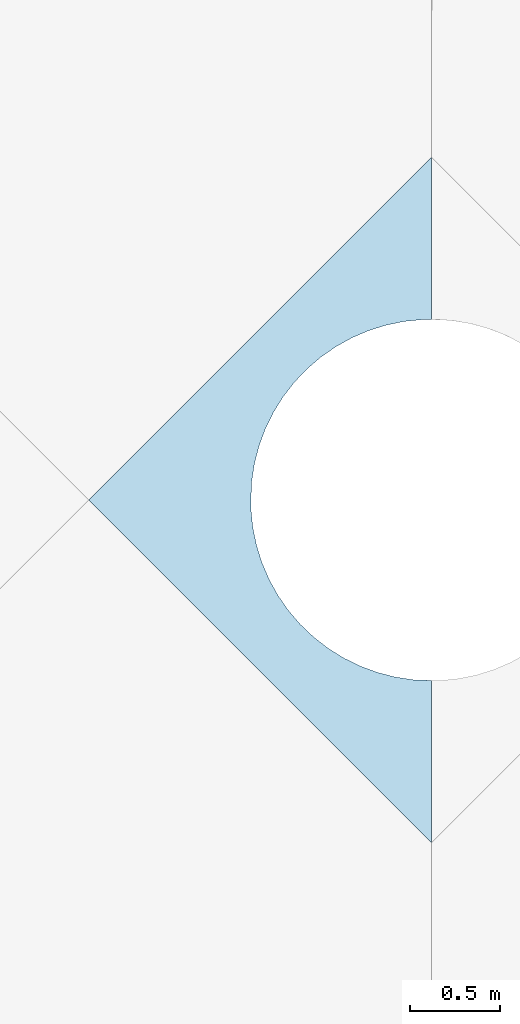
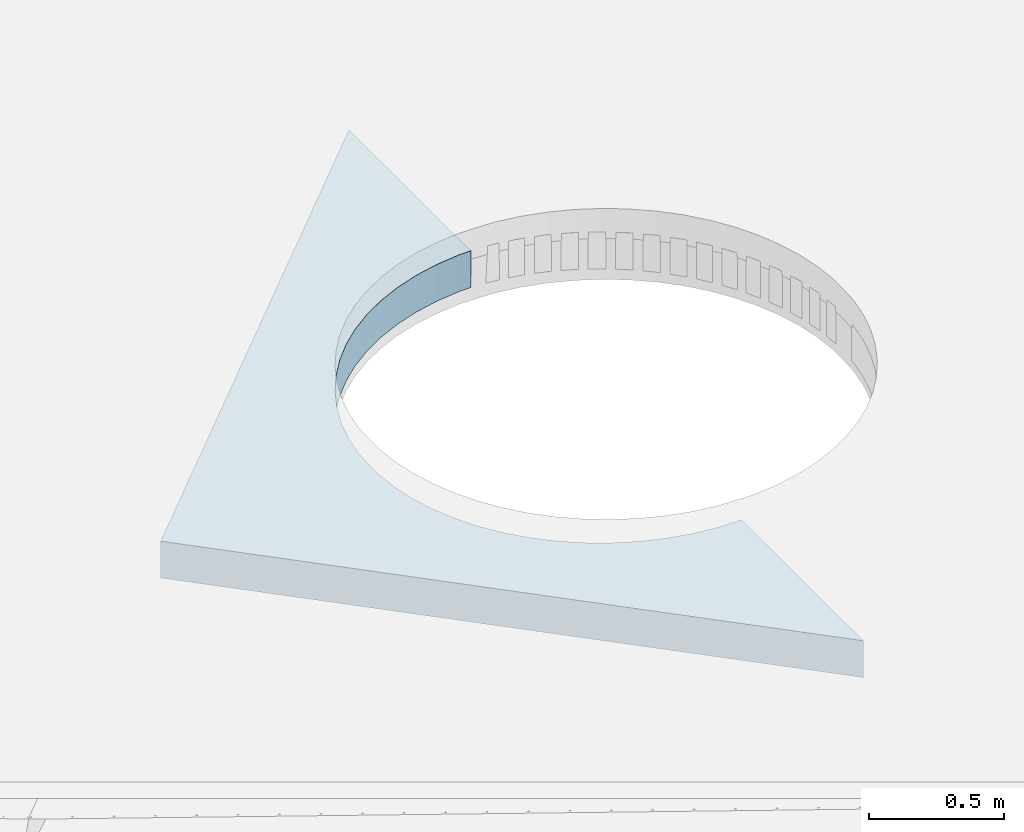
# One storey, part 2 of 10: 1 slab.
"""IFC4 building model written with IfcOpenShell, lengths in millimetres."""

from ifc_helpers import new_model, entity, si_unit, converted_unit, derived_unit, direction, frame, origin_with_axes, place, context, subcontext, project, spatial, polygons, material, constituent, constituent_set, type_object, element, save


model = new_model("IFC4")

# Units and contexts
model_context = context("Model", 3, precision=0.01, world=origin_with_axes(), true_north=direction((0.0, 1.0)))
body_context = subcontext(model_context, "Body", "Model", "MODEL_VIEW")
ifc_project = project(units=[si_unit("LENGTHUNIT", "METRE", prefix="MILLI"), si_unit("AREAUNIT", "SQUARE_METRE"), si_unit("VOLUMEUNIT", "CUBIC_METRE"), converted_unit("PLANEANGLEUNIT", "DEGREE", entity("IfcPlaneAngleMeasure", 0.0174532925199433), si_unit("PLANEANGLEUNIT", "RADIAN"), dimensions=[0, 0, 0, 0, 0, 0, 0]), converted_unit("TIMEUNIT", "Year", entity("IfcTimeMeasure", 31557600.0), si_unit("TIMEUNIT", "SECOND"), dimensions=[0, 0, 1, 0, 0, 0, 0]), si_unit("MASSUNIT", "GRAM", prefix="KILO"), si_unit("THERMODYNAMICTEMPERATUREUNIT", "DEGREE_CELSIUS"), si_unit("LUMINOUSINTENSITYUNIT", "LUMEN"), si_unit("ENERGYUNIT", "JOULE", prefix="MEGA"), derived_unit("THERMALCONDUCTANCEUNIT", [(si_unit("POWERUNIT", "WATT"), 1), (si_unit("LENGTHUNIT", "METRE"), -1), (si_unit("THERMODYNAMICTEMPERATUREUNIT", "KELVIN"), -1)]), derived_unit("SPECIFICHEATCAPACITYUNIT", [(si_unit("ENERGYUNIT", "JOULE"), 1), (si_unit("MASSUNIT", "GRAM", prefix="KILO"), -1), (si_unit("THERMODYNAMICTEMPERATUREUNIT", "KELVIN"), -1)]), derived_unit("MASSDENSITYUNIT", [(si_unit("MASSUNIT", "GRAM", prefix="KILO"), 1), (si_unit("VOLUMEUNIT", "CUBIC_METRE"), -1)])], contexts=[model_context])

# Site, building, storey
site_placement = place(None, origin_with_axes())
site = spatial("IfcSite", under=ifc_project, at=site_placement, Name="Exteriér", CompositionType="ELEMENT")
building_placement = place(site_placement, origin_with_axes())
building = spatial("IfcBuilding", under=site, at=building_placement, Name="Univerzitní lezecké centrum", CompositionType="ELEMENT")
storey_placement = place(building_placement, frame((0.0, 0.0, 9600.000000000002), z_axis=(0.0, 0.0, 1.0), x_axis=(1.0, 0.0, 0.0)))
storey = spatial("IfcBuildingStorey", under=building, at=storey_placement, Name="4.NP", CompositionType="ELEMENT", Elevation=9600.0)

# Slab
ifc_material_1 = material(Name="TPO fólie ochranná")
ifc_constituent_1 = constituent(ifc_material_1, Name="TPO fólie ochranná")
ifc_material_2 = material(Name="Geotextilie 200 g/m2")
ifc_constituent_2 = constituent(ifc_material_2, Name="Geotextilie 200 g/m2")
ifc_material_3 = material(Name="Hydroizolace - TPO fólie")
ifc_constituent_3 = constituent(ifc_material_3, Name="Hydroizolace - TPO fólie")
ifc_material_4 = material(Name="Tepelná izolace - polystyren EPS podlahy")
ifc_constituent_4 = constituent(ifc_material_4, Name="Tepelná izolace - polystyren EPS podlahy")
ifc_constituent_set = constituent_set(constituents=[ifc_constituent_1, ifc_constituent_2, ifc_constituent_3, ifc_constituent_4], Name="!Podlaha spádovaná - terasy - TI + HI vrstva")
slab_type = type_object("IfcSlabType", Name="!Podlaha spádovaná - terasy - TI + HI vrstva 166", PredefinedType="ROOF")
slab_placement = place(storey_placement, frame((549.8516488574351, -2897.489748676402, -300.0062110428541), z_axis=(0.0, 0.0, 1.0), x_axis=(0.0, -1.0, 0.0)))
element("IfcSlab", 1, at=slab_placement, inside=storey, type_object=slab_type, material=ifc_constituent_set, PredefinedType="ROOF", context=body_context, shape_type="Tessellation", body=[
    polygons([(2542.429197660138, 1899.905782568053, 204.0313123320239), (2538.573222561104, 1798.535123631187, 202.0038991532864), (2523.21190620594, 1698.290685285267, 199.9990103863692), (2497.787842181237, 1600.114647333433, 198.0354896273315), (2462.561915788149, 1505.014428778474, 196.1334852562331), (2417.895592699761, 1413.965886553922, 194.3125144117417), (2364.247209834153, 1327.903301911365, 192.5912627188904), (2302.167272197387, 1247.709793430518, 190.9873925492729), (2232.292803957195, 1174.208255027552, 189.5173617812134), (2155.340811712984, 1108.152911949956, 188.1962549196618), (2072.100927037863, 1050.221581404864, 187.0376283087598), (1983.427303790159, 1001.008717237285, 186.0533710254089), (1890.229853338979, 961.0193100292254, 185.2535828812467), (1793.464907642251, 930.6637052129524, 184.6464707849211), (1694.125405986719, 910.2533923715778, 184.2382645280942), (1593.230706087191, 899.9978089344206, 184.0331528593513), (1542.523415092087, 899.9999999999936, 184.0331966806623), (1441.182157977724, 903.8543748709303, 184.1102841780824), (1340.92901036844, 919.2150768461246, 184.4174982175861), (1242.744245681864, 944.6394107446, 184.9259848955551), (1147.635372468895, 979.8664884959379, 185.6305264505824), (1056.578336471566, 1024.534832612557, 186.5238933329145), (970.507506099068, 1078.186085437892, 187.5969183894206), (890.3060845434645, 1140.269712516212, 188.8385909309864), (816.7970469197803, 1210.148651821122, 190.2361697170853), (750.7346954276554, 1287.10585087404, 191.7753136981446), (692.7969191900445, 1370.351624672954, 193.4402291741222), (643.5782381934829, 1459.031758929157, 195.2138318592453), (603.5837027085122, 1552.236275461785, 197.0779221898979), (573.2237107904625, 1649.008769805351, 199.0133720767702), (552.8097970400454, 1748.356225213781, 201.0003211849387), (542.55143583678, 1849.259202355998, 203.0183807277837), (542.5526638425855, 1899.970751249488, 204.032611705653), (-357.7871378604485, 1899.999999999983, 204.0331966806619), (1542.21286213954, 0.0, 166.0331966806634), (2017.325306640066, 474.9034518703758, 175.531265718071), (2492.393973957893, 949.8506961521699, 185.0302106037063), (2967.418860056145, 1424.841728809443, 194.5300312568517), (3442.399960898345, 1899.876545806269, 204.0307275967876), (2542.427676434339, 1899.90578261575, 202.0309123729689), (2538.571199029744, 1798.52191852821, 200.00323509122), (2523.211906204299, 1698.290685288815, 197.9986104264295), (2497.787842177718, 1600.114647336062, 196.0350896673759), (2462.561915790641, 1505.014428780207, 194.1330852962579), (2417.895592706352, 1413.965886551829, 192.3121144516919), (2364.247209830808, 1327.903301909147, 190.5908627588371), (2302.167272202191, 1247.709793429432, 188.9869925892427), (2232.292803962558, 1174.208255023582, 187.5169618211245), (2155.340811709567, 1108.152911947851, 186.1958549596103), (2072.100927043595, 1050.221581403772, 185.0372283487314), (1983.427303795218, 1001.00871723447, 184.0529710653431), (1890.229853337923, 961.0193100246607, 183.2531829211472), (1793.464907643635, 930.6637052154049, 182.6460708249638), (1694.125405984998, 910.2533923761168, 182.2378645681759), (1593.230706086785, 899.9978089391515, 182.0327528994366), (1542.523415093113, 900.0000000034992, 182.0327967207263), (1441.182157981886, 903.8543748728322, 182.1098842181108), (1340.929010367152, 919.2150768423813, 182.4170982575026), (1242.744245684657, 944.6394107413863, 182.9255849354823), (1147.635372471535, 979.8664884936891, 183.6301264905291), (1056.578336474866, 1024.534832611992, 184.523493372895), (970.5075060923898, 1078.186085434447, 185.5965184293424), (890.306084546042, 1140.269712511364, 186.8381909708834), (816.797046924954, 1210.148651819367, 188.2357697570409), (750.7346954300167, 1287.105850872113, 189.7749137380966), (692.7969191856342, 1370.351624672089, 191.4398292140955), (643.5782381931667, 1459.031758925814, 193.2134318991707), (603.5837027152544, 1552.236275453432, 195.0775222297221), (573.2237107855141, 1649.008769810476, 197.0129721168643), (552.8097970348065, 1748.356225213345, 198.9999212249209), (542.5514348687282, 1849.259211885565, 201.0179809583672), (542.5526628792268, 1899.970751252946, 202.0322117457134), (-357.7871378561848, 1900.000000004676, 202.0327967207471), (1542.212862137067, 1.319055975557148e-09, 164.0327967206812), (2017.325306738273, 474.903451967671, 173.530865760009), (2492.393974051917, 949.8506962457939, 183.0298106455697), (2967.418859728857, 1424.841728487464, 192.5296312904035), (3442.399960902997, 1899.87654580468, 202.0303276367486)], [[[1, 2, 3, 4, 5, 6, 7, 8, 9, 10, 11, 12, 13, 14, 15, 16, 17, 18, 19, 20, 21, 22, 23, 24, 25, 26, 27, 28, 29, 30, 31, 32, 33, 34, 35, 36, 37, 38, 39]], [[1, 40, 41, 2]], [[2, 41, 42, 3]], [[3, 42, 43, 4]], [[4, 43, 44, 5]], [[5, 44, 45, 6]], [[6, 45, 46, 7]], [[7, 46, 47, 8]], [[8, 47, 48, 9]], [[9, 48, 49, 10]], [[10, 49, 50, 11]], [[11, 50, 51, 12]], [[12, 51, 52, 13]], [[13, 52, 53, 14]], [[14, 53, 54, 15]], [[15, 54, 55, 16]], [[16, 55, 56, 17]], [[17, 56, 57, 18]], [[18, 57, 58, 19]], [[19, 58, 59, 20]], [[20, 59, 60, 21]], [[21, 60, 61, 22]], [[22, 61, 62, 23]], [[23, 62, 63, 24]], [[24, 63, 64, 25]], [[25, 64, 65, 26]], [[26, 65, 66, 27]], [[27, 66, 67, 28]], [[28, 67, 68, 29]], [[29, 68, 69, 30]], [[30, 69, 70, 31]], [[31, 70, 71, 32]], [[32, 71, 72, 33]], [[33, 72, 73, 34]], [[34, 73, 74, 35]], [[35, 74, 75, 36]], [[36, 75, 76, 37]], [[37, 76, 77, 38]], [[38, 77, 78, 39]], [[39, 78, 40, 1]], [[40, 78, 77, 76, 75, 74, 73, 72, 71, 70, 69, 68, 67, 66, 65, 64, 63, 62, 61, 60, 59, 58, 57, 56, 55, 54, 53, 52, 51, 50, 49, 48, 47, 46, 45, 44, 43, 42, 41]]], closed=True),
    polygons([(3442.399960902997, 1899.87654580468, 202.0303276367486), (3442.39996090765, 1899.876545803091, 200.0299276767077), (2542.426155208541, 1899.905782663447, 200.0305124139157), (2542.427676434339, 1899.90578261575, 202.0309123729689), (2967.418859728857, 1424.841728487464, 192.5296312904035), (2967.41885940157, 1424.841728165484, 190.5292313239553), (2492.393974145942, 949.8506963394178, 181.0294106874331), (2017.325306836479, 474.9034520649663, 171.5304658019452), (1542.212862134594, 2.638889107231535e-09, 162.0323967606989), (-357.787137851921, 1900.000000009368, 200.0323967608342), (542.552661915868, 1899.970751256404, 200.0318117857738), (542.5514339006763, 1849.259221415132, 199.017581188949), (552.8097970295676, 1748.356225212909, 196.9995212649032), (573.2237107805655, 1649.0087698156, 195.0125721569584), (603.5837027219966, 1552.236275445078, 193.0771222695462), (643.5782381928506, 1459.031758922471, 191.2130319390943), (692.796919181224, 1370.351624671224, 189.4394292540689), (750.734695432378, 1287.105850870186, 187.7745137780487), (816.7970469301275, 1210.148651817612, 186.2353697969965), (890.3060845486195, 1140.269712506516, 184.8377910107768), (970.5075060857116, 1078.186085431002, 183.5961184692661), (1056.578336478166, 1024.534832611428, 182.5230934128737), (1147.635372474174, 979.8664884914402, 181.6297265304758), (1242.744245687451, 944.6394107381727, 180.9251849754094), (1340.929010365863, 919.2150768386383, 180.4166982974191), (1441.182157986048, 903.8543748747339, 180.109484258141), (1542.523415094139, 900.0000000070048, 180.0323967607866), (1593.230706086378, 899.9978089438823, 180.0323529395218), (1694.125405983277, 910.2533923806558, 180.2374646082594), (1793.464907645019, 930.6637052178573, 180.6456708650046), (1890.229853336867, 961.0193100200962, 181.2527829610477), (1983.427303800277, 1001.008717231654, 182.0525711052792), (2072.100927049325, 1050.221581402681, 183.0368283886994), (2155.34081170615, 1108.152911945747, 184.1954549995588), (2232.292803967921, 1174.208255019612, 185.5165618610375), (2302.167272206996, 1247.709793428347, 186.9865926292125), (2364.247209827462, 1327.903301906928, 188.5904627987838), (2417.895592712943, 1413.965886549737, 190.3117144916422), (2462.561915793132, 1505.01442878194, 192.1326853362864), (2497.787842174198, 1600.114647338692, 194.0346897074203), (2523.211906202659, 1698.290685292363, 195.9982104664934), (2538.569175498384, 1798.508713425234, 198.00257102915), (2538.571199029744, 1798.52191852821, 200.00323509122), (2523.211906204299, 1698.290685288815, 197.9986104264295), (2497.787842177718, 1600.114647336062, 196.0350896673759), (2462.561915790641, 1505.014428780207, 194.1330852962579), (2417.895592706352, 1413.965886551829, 192.3121144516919), (2364.247209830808, 1327.903301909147, 190.5908627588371), (2302.167272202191, 1247.709793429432, 188.9869925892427), (2232.292803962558, 1174.208255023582, 187.5169618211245), (2155.340811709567, 1108.152911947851, 186.1958549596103), (2072.100927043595, 1050.221581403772, 185.0372283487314), (1983.427303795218, 1001.00871723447, 184.0529710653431), (1890.229853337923, 961.0193100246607, 183.2531829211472), (1793.464907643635, 930.6637052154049, 182.6460708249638), (1694.125405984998, 910.2533923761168, 182.2378645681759), (1593.230706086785, 899.9978089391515, 182.0327528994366), (1542.523415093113, 900.0000000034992, 182.0327967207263), (1441.182157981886, 903.8543748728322, 182.1098842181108), (1340.929010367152, 919.2150768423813, 182.4170982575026), (1242.744245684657, 944.6394107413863, 182.9255849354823), (1147.635372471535, 979.8664884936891, 183.6301264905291), (1056.578336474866, 1024.534832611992, 184.523493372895), (970.5075060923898, 1078.186085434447, 185.5965184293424), (890.306084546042, 1140.269712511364, 186.8381909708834), (816.797046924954, 1210.148651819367, 188.2357697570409), (750.7346954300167, 1287.105850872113, 189.7749137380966), (692.7969191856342, 1370.351624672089, 191.4398292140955), (643.5782381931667, 1459.031758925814, 193.2134318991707), (603.5837027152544, 1552.236275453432, 195.0775222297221), (573.2237107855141, 1649.008769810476, 197.0129721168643), (552.8097970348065, 1748.356225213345, 198.9999212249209), (542.5514348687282, 1849.259211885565, 201.0179809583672), (542.5526628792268, 1899.970751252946, 202.0322117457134), (-357.7871378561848, 1900.000000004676, 202.0327967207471), (1542.212862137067, 1.319055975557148e-09, 164.0327967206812), (2017.325306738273, 474.903451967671, 173.530865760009), (2492.393974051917, 949.8506962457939, 183.0298106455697)], [[[1, 2, 3, 4]], [[5, 6, 2, 1]], [[3, 2, 6, 7, 8, 9, 10, 11, 12, 13, 14, 15, 16, 17, 18, 19, 20, 21, 22, 23, 24, 25, 26, 27, 28, 29, 30, 31, 32, 33, 34, 35, 36, 37, 38, 39, 40, 41, 42]], [[4, 3, 42, 43]], [[4, 43, 44, 45, 46, 47, 48, 49, 50, 51, 52, 53, 54, 55, 56, 57, 58, 59, 60, 61, 62, 63, 64, 65, 66, 67, 68, 69, 70, 71, 72, 73, 74, 75, 76, 77, 78, 5, 1]], [[78, 7, 6, 5]], [[77, 8, 7, 78]], [[76, 9, 8, 77]], [[75, 10, 9, 76]], [[74, 11, 10, 75]], [[73, 12, 11, 74]], [[72, 13, 12, 73]], [[71, 14, 13, 72]], [[70, 15, 14, 71]], [[69, 16, 15, 70]], [[68, 17, 16, 69]], [[67, 18, 17, 68]], [[66, 19, 18, 67]], [[65, 20, 19, 66]], [[64, 21, 20, 65]], [[63, 22, 21, 64]], [[62, 23, 22, 63]], [[61, 24, 23, 62]], [[60, 25, 24, 61]], [[59, 26, 25, 60]], [[58, 27, 26, 59]], [[57, 28, 27, 58]], [[56, 29, 28, 57]], [[55, 30, 29, 56]], [[54, 31, 30, 55]], [[53, 32, 31, 54]], [[52, 33, 32, 53]], [[51, 34, 33, 52]], [[50, 35, 34, 51]], [[49, 36, 35, 50]], [[48, 37, 36, 49]], [[47, 38, 37, 48]], [[46, 39, 38, 47]], [[45, 40, 39, 46]], [[44, 41, 40, 45]], [[43, 42, 41, 44]]], closed=True),
    polygons([(3442.39996090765, 1899.876545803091, 200.0299276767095), (3442.399960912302, 1899.876545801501, 198.0295277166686), (2542.424633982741, 1899.905782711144, 198.0301124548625), (2542.42615520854, 1899.905782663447, 200.0305124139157), (2967.418859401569, 1424.841728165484, 190.529231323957), (2967.418859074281, 1424.841727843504, 188.5288313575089), (2492.393974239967, 949.8506964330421, 179.0290107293), (2017.325306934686, 474.9034521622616, 169.530065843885), (1542.212862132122, 3.958611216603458e-09, 160.0319968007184), (-357.7871378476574, 1900.00000001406, 198.0319968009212), (542.5526609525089, 1899.970751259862, 198.031411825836), (542.5514329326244, 1849.259230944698, 197.0171814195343), (552.8097970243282, 1748.356225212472, 194.9991213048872), (573.2237107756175, 1649.008769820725, 193.0121721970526), (603.5837027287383, 1552.236275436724, 191.0767223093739), (643.5782381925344, 1459.031758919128, 189.2126319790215), (692.7969191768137, 1370.351624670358, 187.4390292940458), (750.7346954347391, 1287.105850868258, 185.7741138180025), (816.7970469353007, 1210.148651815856, 184.2349698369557), (890.3060845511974, 1140.269712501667, 182.8373910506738), (970.5075060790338, 1078.186085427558, 181.5957185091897), (1056.578336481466, 1024.534832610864, 180.5226934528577), (1147.635372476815, 979.8664884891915, 179.6293265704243), (1242.744245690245, 944.639410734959, 178.9247850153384), (1340.929010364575, 919.2150768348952, 178.4162983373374), (1441.18215799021, 903.8543748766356, 178.1090842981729), (1542.523415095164, 900.0000000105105, 178.0319968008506), (1593.23070608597, 899.9978089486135, 178.0319529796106), (1694.125405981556, 910.2533923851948, 178.2370646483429), (1793.464907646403, 930.6637052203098, 178.6452709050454), (1890.229853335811, 961.0193100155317, 179.25238300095), (1983.427303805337, 1001.008717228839, 180.0521711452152), (2072.100927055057, 1050.22158140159, 181.0364284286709), (2155.340811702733, 1108.152911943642, 182.1950550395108), (2232.292803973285, 1174.208255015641, 183.5161619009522), (2302.167272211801, 1247.709793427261, 184.986192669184), (2364.247209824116, 1327.90330190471, 186.5900628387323), (2417.895592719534, 1413.965886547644, 188.3113145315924), (2462.561915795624, 1505.014428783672, 190.132285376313), (2497.787842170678, 1600.114647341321, 192.0342897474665), (2523.211906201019, 1698.290685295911, 193.9978105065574), (2538.567151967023, 1798.495508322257, 196.0019069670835), (2538.569175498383, 1798.508713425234, 198.0025710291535), (2523.21190620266, 1698.290685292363, 195.9982104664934), (2497.787842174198, 1600.114647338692, 194.0346897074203), (2462.561915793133, 1505.014428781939, 192.1326853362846), (2417.895592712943, 1413.965886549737, 190.3117144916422), (2364.247209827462, 1327.903301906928, 188.5904627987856), (2302.167272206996, 1247.709793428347, 186.9865926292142), (2232.292803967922, 1174.208255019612, 185.5165618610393), (2155.34081170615, 1108.152911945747, 184.1954549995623), (2072.100927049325, 1050.221581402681, 183.0368283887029), (1983.427303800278, 1001.008717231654, 182.0525711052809), (1890.229853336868, 961.0193100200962, 181.2527829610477), (1793.464907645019, 930.6637052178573, 180.6456708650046), (1694.125405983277, 910.2533923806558, 180.2374646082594), (1593.230706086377, 899.9978089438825, 180.0323529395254), (1542.523415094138, 900.0000000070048, 180.0323967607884), (1441.182157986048, 903.8543748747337, 180.109484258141), (1340.929010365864, 919.2150768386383, 180.4166982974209), (1242.744245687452, 944.6394107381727, 180.9251849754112), (1147.635372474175, 979.8664884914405, 181.6297265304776), (1056.578336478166, 1024.534832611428, 182.5230934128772), (970.5075060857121, 1078.186085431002, 183.5961184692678), (890.3060845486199, 1140.269712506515, 184.8377910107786), (816.7970469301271, 1210.148651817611, 186.2353697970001), (750.734695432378, 1287.105850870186, 187.7745137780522), (692.796919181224, 1370.351624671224, 189.4394292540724), (643.5782381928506, 1459.031758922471, 191.2130319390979), (603.5837027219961, 1552.236275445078, 193.077122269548), (573.223710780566, 1649.0087698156, 195.0125721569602), (552.8097970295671, 1748.356225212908, 196.999521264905), (542.5514339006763, 1849.259221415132, 199.0175811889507), (542.5526619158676, 1899.970751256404, 200.0318117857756), (-357.787137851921, 1900.000000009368, 200.0323967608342), (1542.212862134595, 2.638778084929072e-09, 162.0323967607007), (2017.325306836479, 474.9034520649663, 171.530465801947), (2492.393974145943, 949.850696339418, 181.0294106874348)], [[[1, 2, 3, 4]], [[5, 6, 2, 1]], [[3, 2, 6, 7, 8, 9, 10, 11, 12, 13, 14, 15, 16, 17, 18, 19, 20, 21, 22, 23, 24, 25, 26, 27, 28, 29, 30, 31, 32, 33, 34, 35, 36, 37, 38, 39, 40, 41, 42]], [[4, 3, 42, 43]], [[4, 43, 44, 45, 46, 47, 48, 49, 50, 51, 52, 53, 54, 55, 56, 57, 58, 59, 60, 61, 62, 63, 64, 65, 66, 67, 68, 69, 70, 71, 72, 73, 74, 75, 76, 77, 78, 5, 1]], [[78, 7, 6, 5]], [[77, 8, 7, 78]], [[76, 9, 8, 77]], [[75, 10, 9, 76]], [[74, 11, 10, 75]], [[73, 12, 11, 74]], [[72, 13, 12, 73]], [[71, 14, 13, 72]], [[70, 15, 14, 71]], [[69, 16, 15, 70]], [[68, 17, 16, 69]], [[67, 18, 17, 68]], [[66, 19, 18, 67]], [[65, 20, 19, 66]], [[64, 21, 20, 65]], [[63, 22, 21, 64]], [[62, 23, 22, 63]], [[61, 24, 23, 62]], [[60, 25, 24, 61]], [[59, 26, 25, 60]], [[58, 27, 26, 59]], [[57, 28, 27, 58]], [[56, 29, 28, 57]], [[55, 30, 29, 56]], [[54, 31, 30, 55]], [[53, 32, 31, 54]], [[52, 33, 32, 53]], [[51, 34, 33, 52]], [[50, 35, 34, 51]], [[49, 36, 35, 50]], [[48, 37, 36, 49]], [[47, 38, 37, 48]], [[46, 39, 38, 47]], [[45, 40, 39, 46]], [[44, 41, 40, 45]], [[43, 42, 41, 44]]], closed=True),
    polygons([(3442.399960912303, 1899.876545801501, 198.0295277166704), (3442.3999612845, 1899.876545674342, 37.99753071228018), (2542.302935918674, 1899.905786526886, 37.99811552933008), (2542.424633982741, 1899.905782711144, 198.0301124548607), (2967.418859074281, 1424.841727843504, 188.5288313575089), (2967.418832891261, 1424.841702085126, 28.49683384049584), (2492.393981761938, 949.8507039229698, 18.99701387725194), (2017.325314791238, 474.9034599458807, 9.498068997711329), (1542.212861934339, 1.095422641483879e-07, -1.990159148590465e-07), (-357.7871375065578, 1900.000000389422, 37.99999980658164), (542.5525838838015, 1899.970751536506, 37.99941482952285), (542.5513554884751, 1849.259993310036, 36.98519966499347), (552.8097966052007, 1748.35622517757, 34.96712430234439), (573.223710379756, 1649.008770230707, 32.98017520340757), (603.5837032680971, 1552.236274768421, 31.04472529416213), (643.5782381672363, 1459.03175865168, 29.18063497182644), (692.7969188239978, 1370.351624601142, 27.40703229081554), (750.73469562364, 1287.105850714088, 25.74211681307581), (816.7970473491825, 1210.14865167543, 24.20297283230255), (890.3060847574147, 1140.269712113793, 22.80539404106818), (970.5075055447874, 1078.186085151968, 21.56372150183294), (1056.578336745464, 1024.534832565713, 20.49069645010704), (1147.635372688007, 979.8664883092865, 19.59732956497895), (1242.744245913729, 944.6394104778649, 18.89278800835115), (1340.929010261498, 919.2150765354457, 18.38430132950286), (1441.18215832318, 903.8543750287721, 18.07708729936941), (1542.523415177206, 900.0000002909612, 17.99999980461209), (1593.230706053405, 899.9978093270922, 17.99995598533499), (1694.125405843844, 910.2533927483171, 18.20506765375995), (1793.464907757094, 930.6637054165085, 18.61327390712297), (1890.229853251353, 961.0193096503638, 19.22038599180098), (1983.427304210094, 1001.0087170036, 20.0201741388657), (2072.100927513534, 1050.221581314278, 21.00443142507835), (2155.340811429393, 1108.15291177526, 22.16305803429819), (2232.292804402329, 1174.208254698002, 23.48416489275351), (2302.167272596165, 1247.709793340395, 24.95419566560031), (2364.247209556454, 1327.903301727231, 26.55806583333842), (2417.895593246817, 1413.965886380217, 28.27931752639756), (2462.561915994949, 1505.014428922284, 30.10028837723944), (2497.787841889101, 1600.114647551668, 32.00229274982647), (2523.211906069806, 1698.290685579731, 33.96581351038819), (2538.40526945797, 1797.439100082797, 35.94878180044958), (2538.567151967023, 1798.495508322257, 196.0019069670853), (2523.211906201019, 1698.290685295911, 193.9978105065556), (2497.787842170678, 1600.114647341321, 192.0342897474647), (2462.561915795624, 1505.014428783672, 190.1322853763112), (2417.895592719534, 1413.965886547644, 188.3113145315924), (2364.247209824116, 1327.90330190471, 186.5900628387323), (2302.167272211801, 1247.709793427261, 184.986192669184), (2232.292803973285, 1174.208255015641, 183.5161619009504), (2155.340811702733, 1108.152911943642, 182.1950550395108), (2072.100927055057, 1050.22158140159, 181.0364284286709), (1983.427303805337, 1001.008717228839, 180.0521711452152), (1890.229853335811, 961.0193100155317, 179.2523830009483), (1793.464907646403, 930.6637052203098, 178.6452709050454), (1694.125405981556, 910.2533923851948, 178.2370646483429), (1593.23070608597, 899.9978089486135, 178.0319529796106), (1542.523415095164, 900.0000000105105, 178.0319968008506), (1441.18215799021, 903.8543748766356, 178.1090842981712), (1340.929010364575, 919.2150768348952, 178.4162983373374), (1242.744245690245, 944.639410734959, 178.9247850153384), (1147.635372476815, 979.8664884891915, 179.6293265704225), (1056.578336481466, 1024.534832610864, 180.5226934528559), (970.5075060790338, 1078.186085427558, 181.5957185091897), (890.3060845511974, 1140.269712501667, 182.8373910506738), (816.7970469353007, 1210.148651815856, 184.2349698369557), (750.7346954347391, 1287.105850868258, 185.7741138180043), (692.7969191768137, 1370.351624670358, 187.4390292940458), (643.5782381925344, 1459.031758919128, 189.2126319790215), (603.5837027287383, 1552.236275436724, 191.0767223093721), (573.2237107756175, 1649.008769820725, 193.0121721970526), (552.8097970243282, 1748.356225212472, 194.9991213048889), (542.5514329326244, 1849.259230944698, 197.0171814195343), (542.5526609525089, 1899.970751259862, 198.031411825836), (-357.7871378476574, 1900.00000001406, 198.0319968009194), (1542.212862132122, 3.958611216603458e-09, 160.0319968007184), (2017.325306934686, 474.9034521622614, 169.530065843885), (2492.393974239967, 949.8506964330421, 179.0290107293)], [[[1, 2, 3, 4]], [[5, 6, 2, 1]], [[2, 6, 7, 8, 9, 10, 11, 12, 13, 14, 15, 16, 17, 18, 19, 20, 21, 22, 23, 24, 25, 26, 27, 28, 29, 30, 31, 32, 33, 34, 35, 36, 37, 38, 39, 40, 41, 42, 3]], [[4, 3, 42, 43]], [[4, 43, 44, 45, 46, 47, 48, 49, 50, 51, 52, 53, 54, 55, 56, 57, 58, 59, 60, 61, 62, 63, 64, 65, 66, 67, 68, 69, 70, 71, 72, 73, 74, 75, 76, 77, 78, 5, 1]], [[78, 7, 6, 5]], [[77, 8, 7, 78]], [[76, 9, 8, 77]], [[75, 10, 9, 76]], [[74, 11, 10, 75]], [[73, 12, 11, 74]], [[72, 13, 12, 73]], [[71, 14, 13, 72]], [[70, 15, 14, 71]], [[69, 16, 15, 70]], [[68, 17, 16, 69]], [[67, 18, 17, 68]], [[66, 19, 18, 67]], [[65, 20, 19, 66]], [[64, 21, 20, 65]], [[63, 22, 21, 64]], [[62, 23, 22, 63]], [[61, 24, 23, 62]], [[60, 25, 24, 61]], [[59, 26, 25, 60]], [[58, 27, 26, 59]], [[57, 28, 27, 58]], [[56, 29, 28, 57]], [[55, 30, 29, 56]], [[54, 31, 30, 55]], [[53, 32, 31, 54]], [[52, 33, 32, 53]], [[51, 34, 33, 52]], [[50, 35, 34, 51]], [[49, 36, 35, 50]], [[48, 37, 36, 49]], [[47, 38, 37, 48]], [[46, 39, 38, 47]], [[45, 40, 39, 46]], [[44, 41, 40, 45]], [[43, 42, 41, 44]]], closed=True),
])

save(model, "model.ifc")
